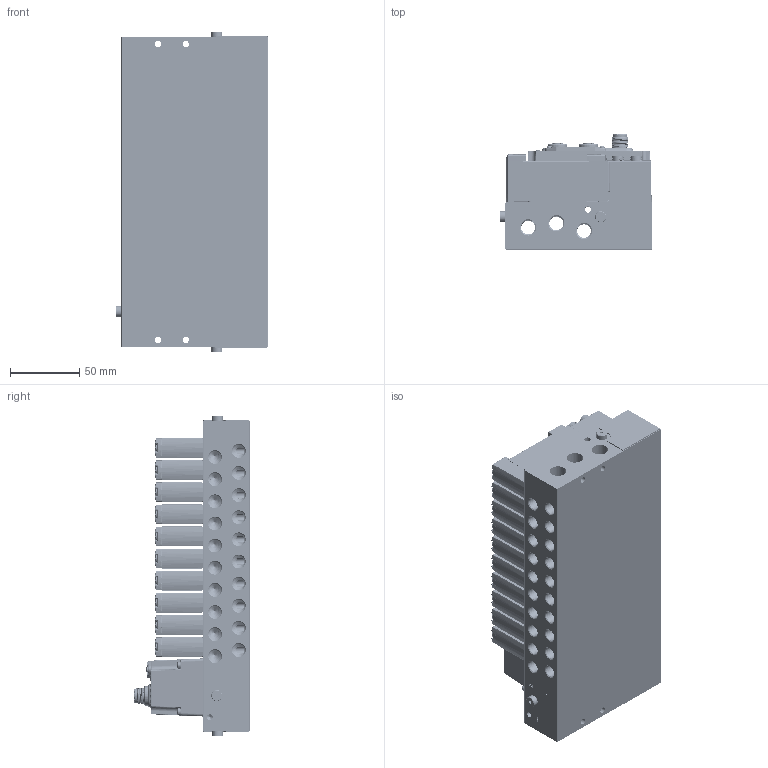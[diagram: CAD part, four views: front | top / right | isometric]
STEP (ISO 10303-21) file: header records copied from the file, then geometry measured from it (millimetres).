
FILE_DESCRIPTION((''),'2;1');
FILE_NAME('C3-L14-W-XBF-10_ASM','2026-06-22T11:16:55',('admin'),(''),'CREO PARAMETRIC BY PTC INC, 2022073','CREO PARAMETRIC BY PTC INC, 2022073','');
FILE_SCHEMA(('CONFIG_CONTROL_DESIGN'));
Products named in the file (49): M50001; 202300320_ASM-1_202300349-1-SOL; 202300320_ASM-1_202300353-1-SOL; 202300320_ASM-1_202300327-1-SOL; 202300320_ASM-1_202300314_ASM-1; 202300320_ASM-1_202300349-2-SOL; 202300320_ASM-1_202300355-2-SOL; PRT0002-1-SOLID4; PRT0002-1-SOLID1; 202300320_ASM-1_202300353-2-SOL; NONE-103381; 202300320_ASM-1_202300351-1-SOL; NONE-111982; 202300320_ASM-1_202300318_ASM-1; PRT0002-1-SOLID2; 202300320_ASM-1_202300355-1-SOL; 202300320_ASM-1_202300351-2-SOL; NONE-191387; 202300320_ASM-1_202300144-1-SOL; SURFACE-VGB14_ASM; 0001; C3-L14-W-XBF-10-174050; XBF_0001_ASM; C3-L14-W-XBF-10-52447_ASM; SURFACE-VGB14_ASM_1_ASM_1_ASM_1; M3X16-2-SOLID10001_1_1_1; M3X16-4-SOLID10001_1_1_1; SH794-1-1-SOLID1_1_1_1_1; SH794-1-1-SOLID1_1_2_1_1; SH794-1-1-SOLID1_1_3_1_1; SH794-1-1-SOLID1_1_ASM_1_ASM_1_ASM; M3X5-1-SOLID10001_1_1_1; M3X16-3-SOLID10001_1_1_1; M12D-2022_11_-70380001_1_1_1; M12D-2022_11_-82260001_1_1_1; M3X16-1-SOLID10001_1_1_1; NONE-196029_1_1_1; SH794-3-1-SOLID1_1_1_1; NONE-215390_1_1_1; M12A5-1-SOLID10001_1_1_1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
Assembly tree (89 placements, depth 9):
  C3-L14-W-XBF-10_ASM
    C3-L14-W-XBF-10-52447_ASM
      M50001  x3
      SURFACE-VGB14_ASM  x10
        202300320_ASM-1_202300349-1-SOL
        202300320_ASM-1_202300353-1-SOL
        202300320_ASM-1_202300327-1-SOL
        202300320_ASM-1_202300314_ASM-1
        202300320_ASM-1_202300349-2-SOL
        202300320_ASM-1_202300355-2-SOL
        PRT0002-1-SOLID4
        PRT0002-1-SOLID1
        202300320_ASM-1_202300353-2-SOL
        NONE-103381
        202300320_ASM-1_202300351-1-SOL
        NONE-111982
        202300320_ASM-1_202300318_ASM-1
        PRT0002-1-SOLID2
        202300320_ASM-1_202300355-1-SOL
        202300320_ASM-1_202300351-2-SOL
        NONE-191387
        202300320_ASM-1_202300144-1-SOL
      0001  x2
      C3-L14-W-XBF-10-174050
      XBF_0001_ASM
    C3EC_ASM
      C3-L14-W-XBF-24_ASM_ASM_1_ASM
        C3-L14-W-XBF-24_ASM_ASM_1_ASM_1_ASM
          C3-L14-W-XBF-24_ASM_1_ASM_1_ASM_ASM
            C3-L14-W-XBF-24-210887_ASM_1_AS_ASM
              SURFACE-VGB14_ASM_1_ASM_1_ASM_1  x24
              XBF_0001_ASM_1_ASM_1_ASM_1_ASM
                M3X16-2-SOLID10001_1_1_1
                M3X16-4-SOLID10001_1_1_1
                SH794-1-1-SOLID1_1_ASM_1_ASM_1_ASM
                  SH794-1-1-SOLID1_1_1_1_1
                  SH794-1-1-SOLID1_1_2_1_1
                  SH794-1-1-SOLID1_1_3_1_1
                M3X5-1-SOLID10001_1_1_1  x2
                M3X16-3-SOLID10001_1_1_1
                M12D-2022_11_-70380001_1_1_1
                M12D-2022_11_-82260001_1_1_1
                M3X16-1-SOLID10001_1_1_1
                NONE-196029_1_1_1
                SH794-3-1-SOLID1_1_1_1
                NONE-215390_1_1_1
                M12A5-1-SOLID10001_1_1_1
            _06--1-SOLID30001_1_1_1  x6
            IP_COVER_1_1_1
Bounding box: 110 x 83.3 x 232 mm (x, y, z)
Volume: 996863.3 mm3; surface area: 367282 mm2
Topology: 208 solids, 280 shells, 16277 faces, 41772 edges, 24527 vertices
Faces by surface type: cylinder 5628, plane 4157, bspline 1750, torus 1729, cone 1553, sphere 1375, extrusion 85
Entity records: 173712 total; most frequent: CARTESIAN_POINT 64026, DIRECTION 22872, ORIENTED_EDGE 22808, EDGE_CURVE 11412, AXIS2_PLACEMENT_3D 8919, VERTEX_POINT 7317, EDGE_LOOP 5039, VECTOR 5034
